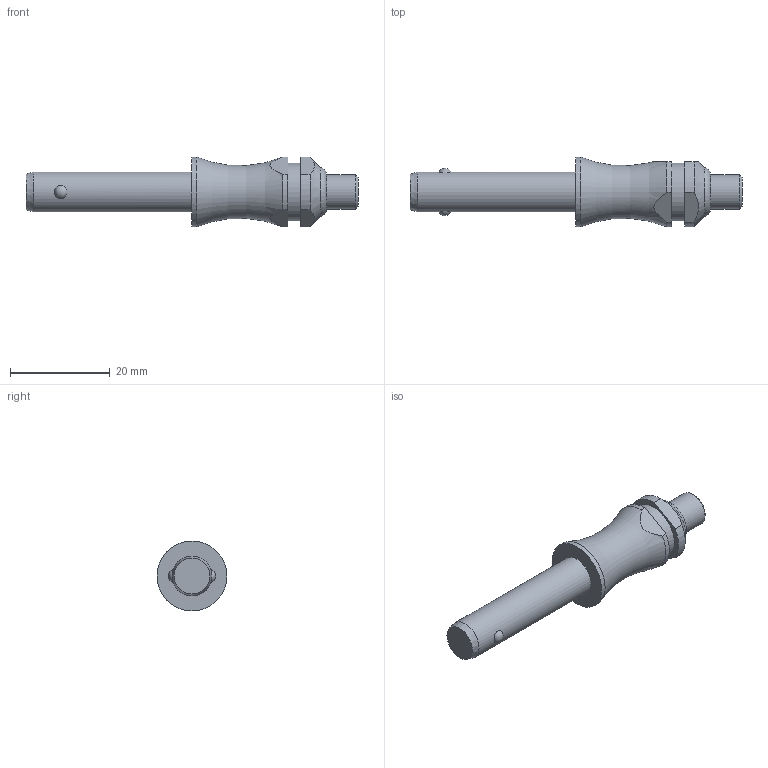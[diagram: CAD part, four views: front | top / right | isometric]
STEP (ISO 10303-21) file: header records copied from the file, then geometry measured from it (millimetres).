
FILE_DESCRIPTION( ( 'STEP AP203' ), '1' );
FILE_NAME( 'C:/Temp/Ganter_Step_05_03_2020/data/3_1/gn113_3/Stainless Steel-Ball lock pin GN 113.3-8-25 (deactivated).stp', '2020-03-12T08:18:23', ( 'License CC BY-ND 4.0' ), ( 'CADENAS' ), ' ', 'PARTsolutions', ' ' );
FILE_SCHEMA( ( 'CONFIG_CONTROL_DESIGN' ) );
Length unit declared in the file: millimetre
Products named in the file (1): _Stainless Steel-Ball lock pin GN 113.3-8-25 (deactivated)
Bounding box: 66.5 x 14 x 14 mm (x, y, z)
Volume: 4888.6 mm3; surface area: 2291.7 mm2
Topology: 1 solids, 1 shells, 28 faces, 60 edges, 39 vertices
Faces by surface type: plane 11, cylinder 10, cone 3, torus 2, sphere 2
Full cylindrical faces by diameter (mm): 7 x1, 8 x1, 11.6 x1, 14 x1
Entity records: 916 total; most frequent: CARTESIAN_POINT 303, DIRECTION 122, ORIENTED_EDGE 98, AXIS2_PLACEMENT_3D 52, EDGE_CURVE 49, EDGE_LOOP 42, VERTEX_POINT 37, FACE_OUTER_BOUND 34
